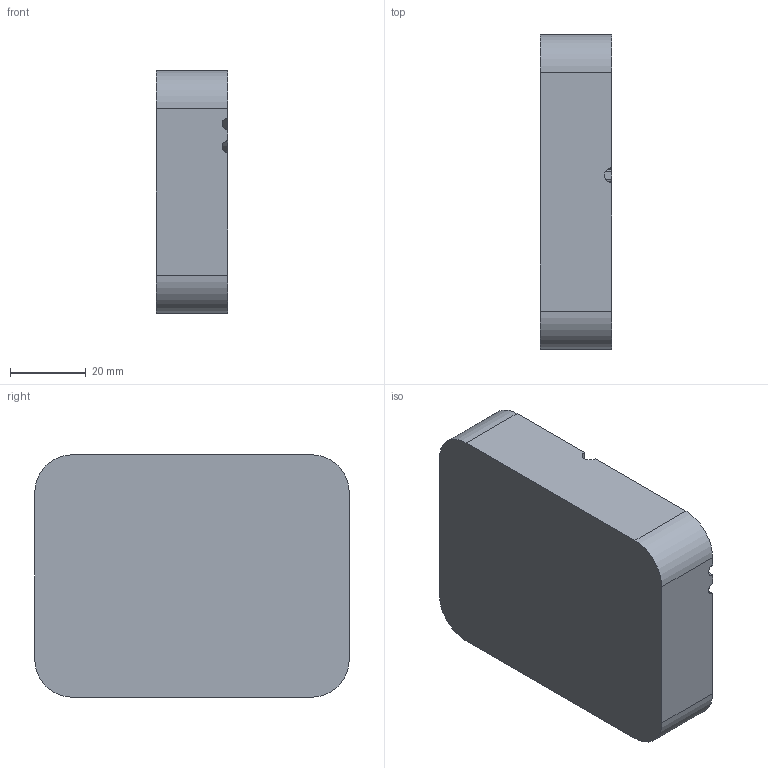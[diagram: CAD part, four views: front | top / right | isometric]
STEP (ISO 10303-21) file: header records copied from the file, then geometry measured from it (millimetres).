
FILE_DESCRIPTION(/* description */ (''),/* implementation_level */ '2;1');
FILE_NAME(/* name */ 'Mal_A_4mm.stp',/* time_stamp */ '2018-05-25T12:12:10+02:00',/* author */ (''),/* organization */ (''),/* preprocessor_version */ 'ST-DEVELOPER v16',/* originating_system */ 'SIEMENS PLM Software NX 11.0',/* authorisation */ '');
FILE_SCHEMA (('AUTOMOTIVE_DESIGN { 1 0 10303 214 3 1 1 1 }'));
Length unit declared in the file: millimetre
Products named in the file (1): Mal_a
Bounding box: 19 x 83 x 64 mm (x, y, z)
Volume: 95242.4 mm3; surface area: 17416.5 mm2
Topology: 1 solids, 1 shells, 84 faces, 211 edges, 129 vertices
Faces by surface type: plane 33, cylinder 25, bspline 14, cone 6, torus 6
Entity records: 2975 total; most frequent: CARTESIAN_POINT 1061, ORIENTED_EDGE 398, DIRECTION 387, EDGE_CURVE 199, AXIS2_PLACEMENT_3D 147, VERTEX_POINT 125, LINE 93, VECTOR 93
